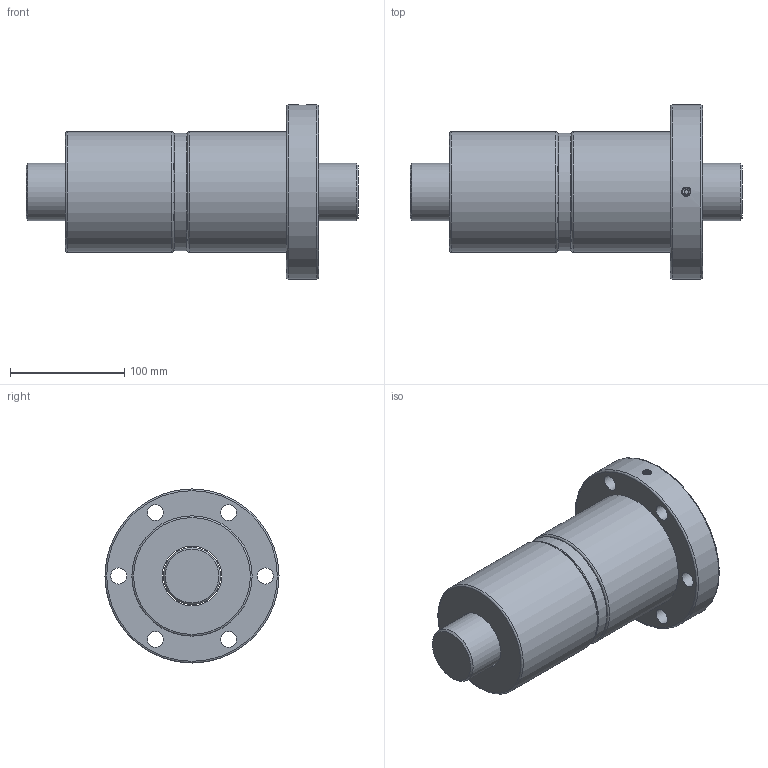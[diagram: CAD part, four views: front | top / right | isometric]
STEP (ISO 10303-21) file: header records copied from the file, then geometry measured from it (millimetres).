
FILE_DESCRIPTION(/* description */ ('Unknown','CAx-IF Rec.Pracs.---Representation and Presentation of Product Manufacturing Information (PMI)---4.0---2014-10-13','CAx-IF Rec.Pracs.---3D Tessellated Geometry---0.4---2014-09-14','2;1'),/* implementation_level */ '2;1');
FILE_NAME(/* name */ 'DFV05020',/* time_stamp */ '2020-12-08T12:07:34+08:00',/* author */ ('Unknown'),/* organization */ ('Unknown'),/* preprocessor_version */ 'ST-DEVELOPER v16.7',/* originating_system */ 'Solid Edge',/* authorisation */ 'Unknown');
FILE_SCHEMA (('AP242_MANAGED_MODEL_BASED_3D_ENGINEERING_MIM_LF { 1 0 10303 442 1 1 4 }'));
Length unit declared in the file: millimetre
Products named in the file (1): DFV05020
Bounding box: 290 x 152 x 152 mm (x, y, z)
Volume: 2234753.3 mm3; surface area: 202514.3 mm2
Topology: 2 solids, 2 shells, 48 faces, 100 edges, 65 vertices
Faces by surface type: cylinder 22, plane 14, torus 7, cone 3, bspline 2
Full cylindrical faces by diameter (mm): 4 x1, 6.917 x1, 14 x6, 20 x6, 50 x1, 52 x1, 103 x1, 105 x2, 152 x1
Entity records: 2998 total; most frequent: CARTESIAN_POINT 2026, DIRECTION 200, ORIENTED_EDGE 122, EDGE_LOOP 103, FACE_BOUND 103, AXIS2_PLACEMENT_3D 101, EDGE_CURVE 61, VERTEX_POINT 56
